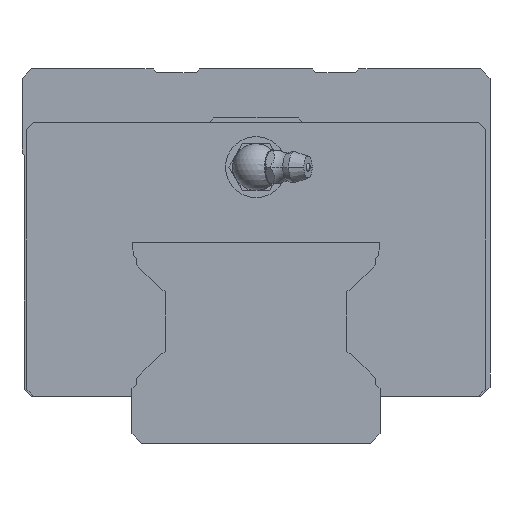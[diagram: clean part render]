
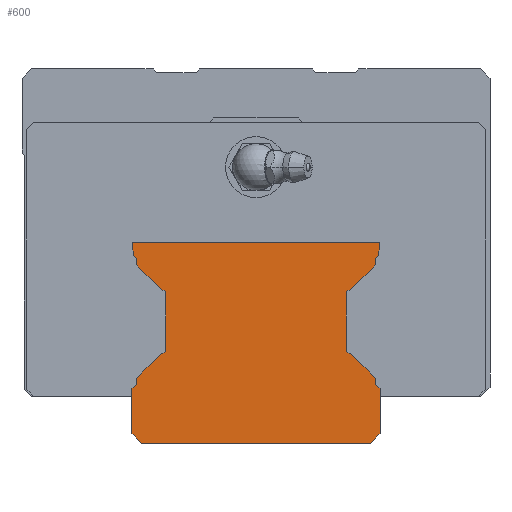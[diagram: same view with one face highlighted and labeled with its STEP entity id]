
A CAD part, front view. The second image highlights one B-rep face of the part: STEP entity #600.
In plain terms, the highlighted planar face has unit normal (0, -1, 0).
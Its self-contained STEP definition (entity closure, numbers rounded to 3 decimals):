
#600=ADVANCED_FACE('',(#1024),#807,.T.);
#807=PLANE('',#5312);
#1024=FACE_OUTER_BOUND('',#1320,.T.);
#1320=EDGE_LOOP('',(#3583,#3584,#3585,#3586,#3587,#3588,#3589,#3590,#3591,
#3592,#3593,#3594,#3595,#3596,#3597,#3598,#3599,#3600,#3601,#3602,#3603,
#3604,#3605,#3606,#3607,#3608,#3609,#3610,#3611,#3612,#3613,#3614));
#1771=LINE('',#7989,#2257);
#1775=LINE('',#8022,#2261);
#1779=LINE('',#8031,#2265);
#1782=LINE('',#8037,#2268);
#1785=LINE('',#8043,#2271);
#1788=LINE('',#8049,#2274);
#1791=LINE('',#8055,#2277);
#1794=LINE('',#8061,#2280);
#1798=LINE('',#8073,#2284);
#1802=LINE('',#8085,#2288);
#1805=LINE('',#8091,#2291);
#1808=LINE('',#8097,#2294);
#1811=LINE('',#8103,#2297);
#1814=LINE('',#8109,#2300);
#1818=LINE('',#8124,#2304);
#1821=LINE('',#8130,#2307);
#1824=LINE('',#8136,#2310);
#1827=LINE('',#8142,#2313);
#1830=LINE('',#8148,#2316);
#1834=LINE('',#8160,#2320);
#1838=LINE('',#8172,#2324);
#1841=LINE('',#8178,#2327);
#1844=LINE('',#8184,#2330);
#1847=LINE('',#8190,#2333);
#1850=LINE('',#8196,#2336);
#1853=LINE('',#8202,#2339);
#2257=VECTOR('',#6401,1.);
#2261=VECTOR('',#6431,1.);
#2265=VECTOR('',#6437,1.);
#2268=VECTOR('',#6442,1.);
#2271=VECTOR('',#6447,1.);
#2274=VECTOR('',#6452,1.);
#2277=VECTOR('',#6457,1.);
#2280=VECTOR('',#6462,1.);
#2284=VECTOR('',#6474,1.);
#2288=VECTOR('',#6486,1.);
#2291=VECTOR('',#6491,1.);
#2294=VECTOR('',#6496,1.);
#2297=VECTOR('',#6501,1.);
#2300=VECTOR('',#6506,1.);
#2304=VECTOR('',#6524,1.);
#2307=VECTOR('',#6529,1.);
#2310=VECTOR('',#6534,1.);
#2313=VECTOR('',#6539,1.);
#2316=VECTOR('',#6544,1.);
#2320=VECTOR('',#6556,1.);
#2324=VECTOR('',#6568,1.);
#2327=VECTOR('',#6573,1.);
#2330=VECTOR('',#6578,1.);
#2333=VECTOR('',#6583,1.);
#2336=VECTOR('',#6588,1.);
#2339=VECTOR('',#6593,1.);
#3583=ORIENTED_EDGE('',*,*,#4675,.F.);
#3584=ORIENTED_EDGE('',*,*,#4765,.F.);
#3585=ORIENTED_EDGE('',*,*,#4762,.F.);
#3586=ORIENTED_EDGE('',*,*,#4759,.F.);
#3587=ORIENTED_EDGE('',*,*,#4756,.F.);
#3588=ORIENTED_EDGE('',*,*,#4753,.F.);
#3589=ORIENTED_EDGE('',*,*,#4750,.F.);
#3590=ORIENTED_EDGE('',*,*,#4747,.F.);
#3591=ORIENTED_EDGE('',*,*,#4744,.F.);
#3592=ORIENTED_EDGE('',*,*,#4741,.F.);
#3593=ORIENTED_EDGE('',*,*,#4738,.F.);
#3594=ORIENTED_EDGE('',*,*,#4735,.F.);
#3595=ORIENTED_EDGE('',*,*,#4732,.F.);
#3596=ORIENTED_EDGE('',*,*,#4729,.F.);
#3597=ORIENTED_EDGE('',*,*,#4726,.F.);
#3598=ORIENTED_EDGE('',*,*,#4723,.F.);
#3599=ORIENTED_EDGE('',*,*,#4659,.F.);
#3600=ORIENTED_EDGE('',*,*,#4721,.F.);
#3601=ORIENTED_EDGE('',*,*,#4718,.F.);
#3602=ORIENTED_EDGE('',*,*,#4715,.F.);
#3603=ORIENTED_EDGE('',*,*,#4712,.F.);
#3604=ORIENTED_EDGE('',*,*,#4709,.F.);
#3605=ORIENTED_EDGE('',*,*,#4706,.F.);
#3606=ORIENTED_EDGE('',*,*,#4703,.F.);
#3607=ORIENTED_EDGE('',*,*,#4700,.F.);
#3608=ORIENTED_EDGE('',*,*,#4697,.F.);
#3609=ORIENTED_EDGE('',*,*,#4694,.F.);
#3610=ORIENTED_EDGE('',*,*,#4691,.F.);
#3611=ORIENTED_EDGE('',*,*,#4688,.F.);
#3612=ORIENTED_EDGE('',*,*,#4685,.F.);
#3613=ORIENTED_EDGE('',*,*,#4682,.F.);
#3614=ORIENTED_EDGE('',*,*,#4679,.F.);
#4030=VERTEX_POINT('',#7990);
#4031=VERTEX_POINT('',#7991);
#4046=VERTEX_POINT('',#8023);
#4047=VERTEX_POINT('',#8024);
#4050=VERTEX_POINT('',#8032);
#4052=VERTEX_POINT('',#8038);
#4054=VERTEX_POINT('',#8044);
#4056=VERTEX_POINT('',#8050);
#4058=VERTEX_POINT('',#8056);
#4060=VERTEX_POINT('',#8062);
#4062=VERTEX_POINT('',#8068);
#4064=VERTEX_POINT('',#8074);
#4066=VERTEX_POINT('',#8080);
#4068=VERTEX_POINT('',#8086);
#4070=VERTEX_POINT('',#8092);
#4072=VERTEX_POINT('',#8098);
#4074=VERTEX_POINT('',#8104);
#4076=VERTEX_POINT('',#8110);
#4078=VERTEX_POINT('',#8119);
#4080=VERTEX_POINT('',#8125);
#4082=VERTEX_POINT('',#8131);
#4084=VERTEX_POINT('',#8137);
#4086=VERTEX_POINT('',#8143);
#4088=VERTEX_POINT('',#8149);
#4090=VERTEX_POINT('',#8155);
#4092=VERTEX_POINT('',#8161);
#4094=VERTEX_POINT('',#8167);
#4096=VERTEX_POINT('',#8173);
#4098=VERTEX_POINT('',#8179);
#4100=VERTEX_POINT('',#8185);
#4102=VERTEX_POINT('',#8191);
#4104=VERTEX_POINT('',#8197);
#4659=EDGE_CURVE('',#4030,#4031,#1771,.T.);
#4675=EDGE_CURVE('',#4046,#4047,#1775,.T.);
#4679=EDGE_CURVE('',#4047,#4050,#1779,.T.);
#4682=EDGE_CURVE('',#4050,#4052,#1782,.T.);
#4685=EDGE_CURVE('',#4052,#4054,#1785,.T.);
#4688=EDGE_CURVE('',#4054,#4056,#1788,.T.);
#4691=EDGE_CURVE('',#4056,#4058,#1791,.T.);
#4694=EDGE_CURVE('',#4058,#4060,#1794,.T.);
#4697=EDGE_CURVE('',#4060,#4062,#4904,.T.);
#4700=EDGE_CURVE('',#4062,#4064,#1798,.T.);
#4703=EDGE_CURVE('',#4064,#4066,#4906,.T.);
#4706=EDGE_CURVE('',#4066,#4068,#1802,.T.);
#4709=EDGE_CURVE('',#4068,#4070,#1805,.T.);
#4712=EDGE_CURVE('',#4070,#4072,#1808,.T.);
#4715=EDGE_CURVE('',#4072,#4074,#1811,.T.);
#4718=EDGE_CURVE('',#4074,#4076,#1814,.T.);
#4721=EDGE_CURVE('',#4076,#4030,#4908,.T.);
#4723=EDGE_CURVE('',#4031,#4078,#4910,.T.);
#4726=EDGE_CURVE('',#4078,#4080,#1818,.T.);
#4729=EDGE_CURVE('',#4080,#4082,#1821,.T.);
#4732=EDGE_CURVE('',#4082,#4084,#1824,.T.);
#4735=EDGE_CURVE('',#4084,#4086,#1827,.T.);
#4738=EDGE_CURVE('',#4086,#4088,#1830,.T.);
#4741=EDGE_CURVE('',#4088,#4090,#4912,.T.);
#4744=EDGE_CURVE('',#4090,#4092,#1834,.T.);
#4747=EDGE_CURVE('',#4092,#4094,#4914,.T.);
#4750=EDGE_CURVE('',#4094,#4096,#1838,.T.);
#4753=EDGE_CURVE('',#4096,#4098,#1841,.T.);
#4756=EDGE_CURVE('',#4098,#4100,#1844,.T.);
#4759=EDGE_CURVE('',#4100,#4102,#1847,.T.);
#4762=EDGE_CURVE('',#4102,#4104,#1850,.T.);
#4765=EDGE_CURVE('',#4104,#4046,#1853,.T.);
#4904=CIRCLE('',#5275,0.5);
#4906=CIRCLE('',#5279,0.5);
#4908=CIRCLE('',#5287,0.5);
#4910=CIRCLE('',#5290,0.5);
#4912=CIRCLE('',#5298,0.5);
#4914=CIRCLE('',#5302,0.5);
#5275=AXIS2_PLACEMENT_3D('',#8067,#6467,#6468);
#5279=AXIS2_PLACEMENT_3D('',#8079,#6479,#6480);
#5287=AXIS2_PLACEMENT_3D('',#8115,#6511,#6512);
#5290=AXIS2_PLACEMENT_3D('',#8118,#6517,#6518);
#5298=AXIS2_PLACEMENT_3D('',#8154,#6549,#6550);
#5302=AXIS2_PLACEMENT_3D('',#8166,#6561,#6562);
#5312=AXIS2_PLACEMENT_3D('',#8206,#6599,#6600);
#6401=DIRECTION('',(1.,0.,0.));
#6431=DIRECTION('',(-1.,0.,0.));
#6437=DIRECTION('',(-0.707,0.,0.707));
#6442=DIRECTION('',(0.,0.,1.));
#6447=DIRECTION('',(0.707,0.,0.707));
#6452=DIRECTION('',(0.,0.,1.));
#6457=DIRECTION('',(0.707,0.,0.707));
#6462=DIRECTION('',(0.966,0.,0.259));
#6467=DIRECTION('',(0.,-1.,0.));
#6468=DIRECTION('',(1.,0.,0.));
#6474=DIRECTION('',(0.,0.,1.));
#6479=DIRECTION('',(0.,-1.,0.));
#6480=DIRECTION('',(1.,0.,0.));
#6486=DIRECTION('',(-0.966,0.,0.259));
#6491=DIRECTION('',(-0.707,0.,0.707));
#6496=DIRECTION('',(0.,0.,1.));
#6501=DIRECTION('',(-0.707,0.,0.707));
#6506=DIRECTION('',(-0.174,0.,0.985));
#6511=DIRECTION('',(0.,1.,0.));
#6512=DIRECTION('',(1.,0.,0.));
#6517=DIRECTION('',(0.,1.,0.));
#6518=DIRECTION('',(1.,0.,0.));
#6524=DIRECTION('',(-0.174,0.,-0.985));
#6529=DIRECTION('',(-0.707,0.,-0.707));
#6534=DIRECTION('',(0.,0.,-1.));
#6539=DIRECTION('',(-0.707,0.,-0.707));
#6544=DIRECTION('',(-0.966,0.,-0.259));
#6549=DIRECTION('',(0.,-1.,0.));
#6550=DIRECTION('',(1.,0.,0.));
#6556=DIRECTION('',(0.,0.,-1.));
#6561=DIRECTION('',(0.,-1.,0.));
#6562=DIRECTION('',(1.,0.,0.));
#6568=DIRECTION('',(0.966,0.,-0.259));
#6573=DIRECTION('',(0.707,0.,-0.707));
#6578=DIRECTION('',(0.,0.,-1.));
#6583=DIRECTION('',(0.707,0.,-0.707));
#6588=DIRECTION('',(0.,0.,-1.));
#6593=DIRECTION('',(-0.707,0.,-0.707));
#6599=DIRECTION('',(0.,-1.,0.));
#6600=DIRECTION('',(0.,0.,-1.));
#7989=CARTESIAN_POINT('',(-26.,0.,42.99));
#7990=CARTESIAN_POINT('',(-26.,0.,42.99));
#7991=CARTESIAN_POINT('',(26.,0.,42.99));
#8022=CARTESIAN_POINT('',(24.51,0.,0.));
#8023=CARTESIAN_POINT('',(24.51,0.,0.));
#8024=CARTESIAN_POINT('',(-24.51,0.,0.));
#8031=CARTESIAN_POINT('',(-24.51,0.,0.));
#8032=CARTESIAN_POINT('',(-26.5,0.,1.99));
#8037=CARTESIAN_POINT('',(-26.5,0.,1.99));
#8038=CARTESIAN_POINT('',(-26.5,0.,11.59));
#8043=CARTESIAN_POINT('',(-26.5,0.,11.59));
#8044=CARTESIAN_POINT('',(-25.5,0.,12.59));
#8049=CARTESIAN_POINT('',(-25.5,0.,12.59));
#8050=CARTESIAN_POINT('',(-25.5,0.,13.89));
#8055=CARTESIAN_POINT('',(-25.5,0.,13.89));
#8056=CARTESIAN_POINT('',(-20.2,0.,19.19));
#8061=CARTESIAN_POINT('',(-20.2,0.,19.19));
#8062=CARTESIAN_POINT('',(-19.621,0.,19.345));
#8067=CARTESIAN_POINT('',(-19.75,0.,19.828));
#8068=CARTESIAN_POINT('',(-19.25,0.,19.828));
#8073=CARTESIAN_POINT('',(-19.25,0.,19.828));
#8074=CARTESIAN_POINT('',(-19.25,0.,32.152));
#8079=CARTESIAN_POINT('',(-19.75,0.,32.152));
#8080=CARTESIAN_POINT('',(-19.621,0.,32.635));
#8085=CARTESIAN_POINT('',(-19.621,0.,32.635));
#8086=CARTESIAN_POINT('',(-20.2,0.,32.79));
#8091=CARTESIAN_POINT('',(-20.2,0.,32.79));
#8092=CARTESIAN_POINT('',(-25.5,0.,38.09));
#8097=CARTESIAN_POINT('',(-25.5,0.,38.09));
#8098=CARTESIAN_POINT('',(-25.5,0.,39.39));
#8103=CARTESIAN_POINT('',(-25.5,0.,39.39));
#8104=CARTESIAN_POINT('',(-26.06,0.,39.95));
#8109=CARTESIAN_POINT('',(-26.06,0.,39.95));
#8110=CARTESIAN_POINT('',(-26.492,0.,42.403));
#8115=CARTESIAN_POINT('',(-26.,0.,42.49));
#8118=CARTESIAN_POINT('',(26.,0.,42.49));
#8119=CARTESIAN_POINT('',(26.492,0.,42.403));
#8124=CARTESIAN_POINT('',(26.492,0.,42.403));
#8125=CARTESIAN_POINT('',(26.06,0.,39.95));
#8130=CARTESIAN_POINT('',(26.06,0.,39.95));
#8131=CARTESIAN_POINT('',(25.5,0.,39.39));
#8136=CARTESIAN_POINT('',(25.5,0.,39.39));
#8137=CARTESIAN_POINT('',(25.5,0.,38.09));
#8142=CARTESIAN_POINT('',(25.5,0.,38.09));
#8143=CARTESIAN_POINT('',(20.2,0.,32.79));
#8148=CARTESIAN_POINT('',(20.2,0.,32.79));
#8149=CARTESIAN_POINT('',(19.621,0.,32.635));
#8154=CARTESIAN_POINT('',(19.75,0.,32.152));
#8155=CARTESIAN_POINT('',(19.25,0.,32.152));
#8160=CARTESIAN_POINT('',(19.25,0.,32.152));
#8161=CARTESIAN_POINT('',(19.25,0.,19.828));
#8166=CARTESIAN_POINT('',(19.75,0.,19.828));
#8167=CARTESIAN_POINT('',(19.621,0.,19.345));
#8172=CARTESIAN_POINT('',(19.621,0.,19.345));
#8173=CARTESIAN_POINT('',(20.2,0.,19.19));
#8178=CARTESIAN_POINT('',(20.2,0.,19.19));
#8179=CARTESIAN_POINT('',(25.5,0.,13.89));
#8184=CARTESIAN_POINT('',(25.5,0.,13.89));
#8185=CARTESIAN_POINT('',(25.5,0.,12.59));
#8190=CARTESIAN_POINT('',(25.5,0.,12.59));
#8191=CARTESIAN_POINT('',(26.5,0.,11.59));
#8196=CARTESIAN_POINT('',(26.5,0.,11.59));
#8197=CARTESIAN_POINT('',(26.5,0.,1.99));
#8202=CARTESIAN_POINT('',(26.5,0.,1.99));
#8206=CARTESIAN_POINT('',(-19.75,0.,19.828));
